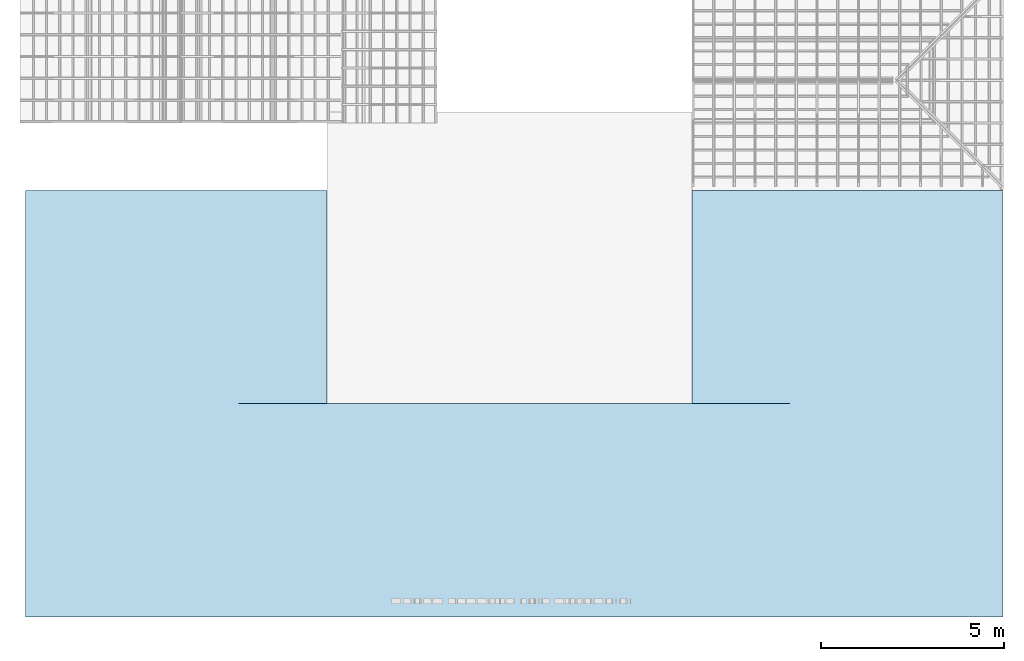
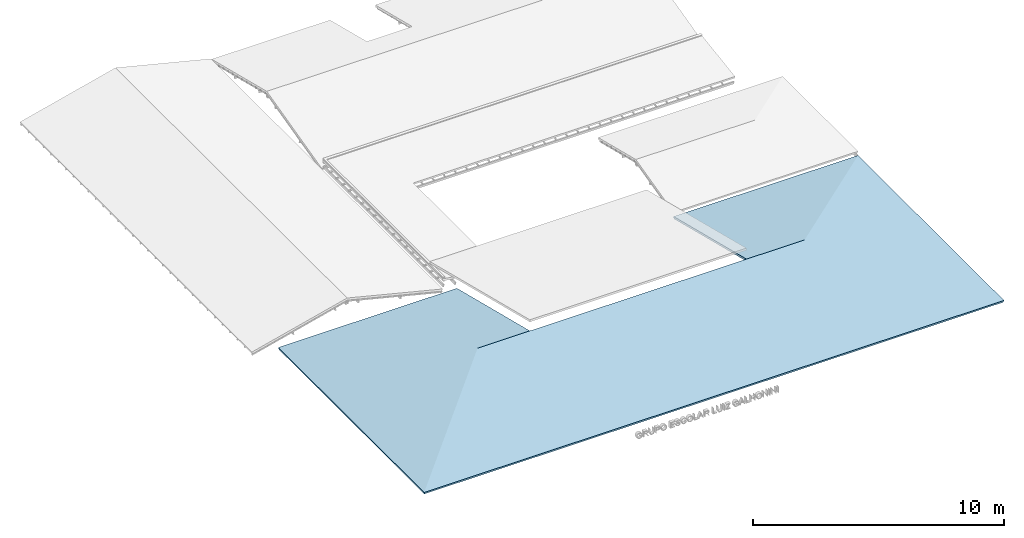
# One storey, part 10 of 10: 1 roof.
"""IFC2X3 building model written with IfcOpenShell, lengths in metres."""

from ifc_helpers import new_model, entity, si_unit, converted_unit, derived_unit, direction, frame, origin, place, context, subcontext, project, spatial, faceted_brep, material, element, save


model = new_model("IFC2X3")

# Units and contexts
model_context = context("Model", 3, precision=1e-05, world=origin(), true_north=direction((6.12303176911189e-17, 1.0)))
body_context = subcontext(model_context, "Body", "Model", "MODEL_VIEW")
ifc_project = project(units=[si_unit("LENGTHUNIT", "METRE"), si_unit("AREAUNIT", "SQUARE_METRE"), si_unit("VOLUMEUNIT", "CUBIC_METRE"), converted_unit("PLANEANGLEUNIT", "DEGREE", entity("IfcRatioMeasure", 0.0174532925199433), si_unit("PLANEANGLEUNIT", "RADIAN"), dimensions=[0, 0, 0, 0, 0, 0, 0]), si_unit("MASSUNIT", "GRAM", prefix="KILO"), derived_unit("MASSDENSITYUNIT", [(si_unit("MASSUNIT", "GRAM", prefix="KILO"), 1), (si_unit("LENGTHUNIT", "METRE"), -3)]), si_unit("TIMEUNIT", "SECOND"), si_unit("FREQUENCYUNIT", "HERTZ"), si_unit("THERMODYNAMICTEMPERATUREUNIT", "DEGREE_CELSIUS"), derived_unit("THERMALTRANSMITTANCEUNIT", [(si_unit("MASSUNIT", "GRAM", prefix="KILO"), 1), (si_unit("THERMODYNAMICTEMPERATUREUNIT", "KELVIN"), -1), (si_unit("TIMEUNIT", "SECOND"), -3)]), derived_unit("VOLUMETRICFLOWRATEUNIT", [(si_unit("LENGTHUNIT", "METRE"), 3), (si_unit("TIMEUNIT", "SECOND"), -1)]), si_unit("ELECTRICCURRENTUNIT", "AMPERE"), si_unit("ELECTRICVOLTAGEUNIT", "VOLT"), si_unit("POWERUNIT", "WATT"), si_unit("FORCEUNIT", "NEWTON", prefix="KILO"), si_unit("ILLUMINANCEUNIT", "LUX"), si_unit("LUMINOUSFLUXUNIT", "LUMEN"), si_unit("LUMINOUSINTENSITYUNIT", "CANDELA"), derived_unit("USERDEFINED", [(si_unit("MASSUNIT", "GRAM", prefix="KILO"), -1), (si_unit("LENGTHUNIT", "METRE"), -2), (si_unit("TIMEUNIT", "SECOND"), 3), (si_unit("LUMINOUSFLUXUNIT", "LUMEN"), 1)]), derived_unit("LINEARVELOCITYUNIT", [(si_unit("LENGTHUNIT", "METRE"), 1), (si_unit("TIMEUNIT", "SECOND"), -1)]), si_unit("PRESSUREUNIT", "PASCAL"), derived_unit("USERDEFINED", [(si_unit("LENGTHUNIT", "METRE"), -2), (si_unit("MASSUNIT", "GRAM", prefix="KILO"), 1), (si_unit("TIMEUNIT", "SECOND"), -2)])], contexts=[model_context])

# Site, building, storey
site_placement = place(None, frame((26.9889013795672, -17.5624287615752, 0.0)))
site = spatial("IfcSite", under=ifc_project, at=site_placement, Name="Default", CompositionType="ELEMENT")
building_placement = place(site_placement, origin())
building = spatial("IfcBuilding", under=site, at=building_placement, Name="C. C. L. Monsenhor Antônio Sampaio", CompositionType="ELEMENT")
storey_placement = place(building_placement, frame((0.0, 0.0, 4.3)))
storey = spatial("IfcBuildingStorey", under=building, at=storey_placement, Name="COBERTURA BLOCO 01", CompositionType="ELEMENT", Elevation=4.3)

# Roof
ifc_material = material(Name=".Telha canal")
roof_placement = place(storey_placement, frame((-14.4905522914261, -39.9530663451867, 1.50606339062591)))
element("IfcRoof", 1, at=roof_placement, inside=storey, material=ifc_material, Name="Telhado básico:Telha Canal", ObjectType="Telhado básico:Telha Canal", ShapeType="NOTDEFINED", context=body_context, shape_type="Brep", body=[
    faceted_brep([(0.0242535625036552, 11.6257464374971, 0.0), (5.82500000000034, 5.82500000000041, 1.45018660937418), (0.0242535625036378, 0.0242535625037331, 0.0), (26.6957464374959, 0.0242535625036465, 0.0), (20.8949999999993, 5.82500000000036, 1.45018660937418), (26.695746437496, 11.625746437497, 0.0), (8.23499999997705, 5.8250000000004, 1.45018660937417), (18.2199999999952, 5.82500000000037, 1.45018660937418), (0.0, 0.0, 0.0970142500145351), (5.82500000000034, 5.82500000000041, 1.55326425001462), (0.0, 11.6500000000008, 0.0970142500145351), (26.7199999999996, 11.6500000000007, 0.097014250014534), (20.8949999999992, 5.82500000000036, 1.55326425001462), (26.7199999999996, 0.0, 0.0970142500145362), (18.2199999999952, 5.82500000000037, 1.55326425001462), (8.23499999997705, 5.82500000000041, 1.55326425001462), (8.23499999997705, 11.6257464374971, 0.0), (8.23499999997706, 11.6500000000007, 0.0970142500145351), (18.2199999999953, 11.6257464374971, 0.0), (18.2199999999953, 11.6500000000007, 0.097014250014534)], [[[0, 1, 2]], [[3, 4, 5]], [[2, 1, 6, 7, 4, 3]], [[8, 9, 10]], [[11, 12, 13]], [[9, 8, 13, 12, 14, 15]], [[0, 2, 8, 10]], [[2, 3, 13, 8]], [[3, 5, 11, 13]], [[6, 16, 17, 15]], [[1, 0, 16, 6]], [[10, 9, 15, 17]], [[18, 7, 14, 19]], [[16, 0, 10, 17]], [[7, 6, 15, 14]], [[5, 4, 7, 18]], [[12, 11, 19, 14]], [[5, 18, 19, 11]]]),
])

save(model, "model.ifc")
